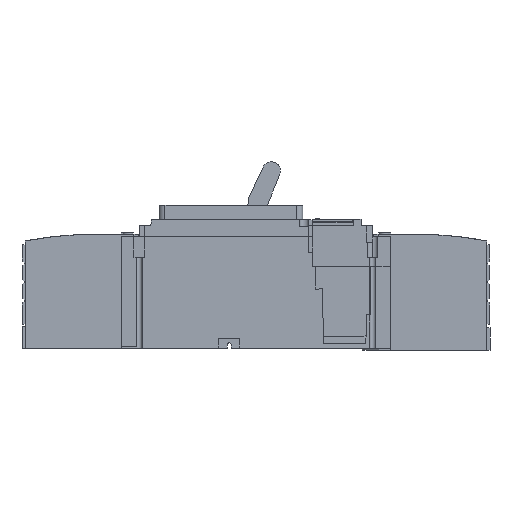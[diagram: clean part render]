
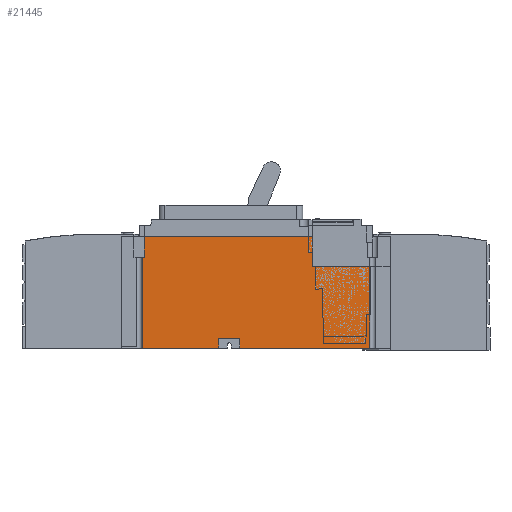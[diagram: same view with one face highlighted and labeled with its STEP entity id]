
A CAD part, left-side view. The second image highlights one B-rep face of the part: STEP entity #21445.
In plain terms, the highlighted planar face has unit normal (-1, 0, 0).
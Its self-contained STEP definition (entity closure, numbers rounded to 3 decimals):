
#1237=DIRECTION('',(0.,-1.,0.));
#1238=VECTOR('',#1237,111.354);
#1239=CARTESIAN_POINT('',(45.,165.266,-118.707));
#1240=LINE('',#1239,#1238);
#1324=DIRECTION('',(0.,-1.,0.));
#1325=VECTOR('',#1324,49.454);
#1326=CARTESIAN_POINT('',(45.,103.366,-48.707));
#1327=LINE('',#1326,#1325);
#1331=DIRECTION('',(0.,0.,-1.));
#1332=VECTOR('',#1331,70.);
#1333=CARTESIAN_POINT('',(45.,53.912,-48.707));
#1334=LINE('',#1333,#1332);
#1338=DIRECTION('',(0.,-1.,0.));
#1339=VECTOR('',#1338,1.954);
#1340=CARTESIAN_POINT('',(45.,248.821,-40.707));
#1341=LINE('',#1340,#1339);
#1345=DIRECTION('',(0.,0.,-1.));
#1346=VECTOR('',#1345,17.5);
#1347=CARTESIAN_POINT('',(45.,246.866,-23.207));
#1348=LINE('',#1347,#1346);
#1352=DIRECTION('',(0.,0.,-1.));
#1353=VECTOR('',#1352,8.5);
#1354=CARTESIAN_POINT('',(45.,165.266,-110.207));
#1355=LINE('',#1354,#1353);
#1424=DIRECTION('',(0.,1.,0.));
#1425=VECTOR('',#1424,65.354);
#1426=CARTESIAN_POINT('',(45.,183.466,-118.707));
#1427=LINE('',#1426,#1425);
#1585=DIRECTION('',(0.,0.,-1.));
#1586=VECTOR('',#1585,8.5);
#1587=CARTESIAN_POINT('',(45.,183.466,-110.207));
#1588=LINE('',#1587,#1586);
#1592=DIRECTION('',(0.,1.,0.));
#1593=VECTOR('',#1592,18.2);
#1594=CARTESIAN_POINT('',(45.,165.266,-110.207));
#1595=LINE('',#1594,#1593);
#2812=DIRECTION('',(0.,1.,0.));
#2813=VECTOR('',#2812,143.5);
#2814=CARTESIAN_POINT('',(45.,103.366,-23.207));
#2815=LINE('',#2814,#2813);
#3509=DIRECTION('',(0.,0.,-1.));
#3510=VECTOR('',#3509,78.);
#3511=CARTESIAN_POINT('',(45.,248.821,-40.707));
#3512=LINE('',#3511,#3510);
#9589=DIRECTION('',(0.,0.,-1.));
#9590=VECTOR('',#9589,25.5);
#9591=CARTESIAN_POINT('',(45.,103.366,-23.207));
#9592=LINE('',#9591,#9590);
#20503=CARTESIAN_POINT('',(45.,165.266,-118.707));
#20504=CARTESIAN_POINT('',(45.,53.912,-118.707));
#20505=VERTEX_POINT('',#20503);
#20506=VERTEX_POINT('',#20504);
#20507=CARTESIAN_POINT('',(45.,183.466,-118.707));
#20508=CARTESIAN_POINT('',(45.,248.821,-118.707));
#20509=VERTEX_POINT('',#20507);
#20510=VERTEX_POINT('',#20508);
#20523=CARTESIAN_POINT('',(45.,103.366,-23.207));
#20524=CARTESIAN_POINT('',(45.,103.366,-48.707));
#20525=VERTEX_POINT('',#20523);
#20526=VERTEX_POINT('',#20524);
#20527=CARTESIAN_POINT('',(45.,165.266,-110.207));
#20528=CARTESIAN_POINT('',(45.,183.466,-110.207));
#20529=VERTEX_POINT('',#20527);
#20530=VERTEX_POINT('',#20528);
#20553=CARTESIAN_POINT('',(45.,246.866,-23.207));
#20555=VERTEX_POINT('',#20553);
#20557=CARTESIAN_POINT('',(45.,248.821,-40.707));
#20558=CARTESIAN_POINT('',(45.,246.866,-40.707));
#20559=VERTEX_POINT('',#20557);
#20560=VERTEX_POINT('',#20558);
#20623=CARTESIAN_POINT('',(45.,53.912,-48.707));
#20625=VERTEX_POINT('',#20623);
#21417=CARTESIAN_POINT('',(45.,53.912,-11.407));
#21418=DIRECTION('',(1.,0.,0.));
#21419=DIRECTION('',(0.,1.,0.));
#21420=AXIS2_PLACEMENT_3D('',#21417,#21418,#21419);
#21421=PLANE('',#21420);
#21422=ORIENTED_EDGE('',*,*,#21041,.T.);
#21423=ORIENTED_EDGE('',*,*,#21409,.T.);
#21424=ORIENTED_EDGE('',*,*,#21374,.F.);
#21426=ORIENTED_EDGE('',*,*,#21425,.F.);
#21428=ORIENTED_EDGE('',*,*,#21427,.T.);
#21430=ORIENTED_EDGE('',*,*,#21429,.T.);
#21432=ORIENTED_EDGE('',*,*,#21431,.T.);
#21434=ORIENTED_EDGE('',*,*,#21433,.F.);
#21436=ORIENTED_EDGE('',*,*,#21435,.T.);
#21438=ORIENTED_EDGE('',*,*,#21437,.F.);
#21440=ORIENTED_EDGE('',*,*,#21439,.F.);
#21442=ORIENTED_EDGE('',*,*,#21441,.T.);
#21443=EDGE_LOOP('',(#21422,#21423,#21424,#21426,#21428,#21430,#21432,#21434,
#21436,#21438,#21440,#21442));
#21444=FACE_OUTER_BOUND('',#21443,.F.);
#21041=EDGE_CURVE('',#20526,#20625,#1327,.T.);
#21374=EDGE_CURVE('',#20505,#20506,#1240,.T.);
#21409=EDGE_CURVE('',#20625,#20506,#1334,.T.);
#21425=EDGE_CURVE('',#20529,#20505,#1355,.T.);
#21427=EDGE_CURVE('',#20529,#20530,#1595,.T.);
#21429=EDGE_CURVE('',#20530,#20509,#1588,.T.);
#21431=EDGE_CURVE('',#20509,#20510,#1427,.T.);
#21433=EDGE_CURVE('',#20559,#20510,#3512,.T.);
#21435=EDGE_CURVE('',#20559,#20560,#1341,.T.);
#21437=EDGE_CURVE('',#20555,#20560,#1348,.T.);
#21439=EDGE_CURVE('',#20525,#20555,#2815,.T.);
#21441=EDGE_CURVE('',#20525,#20526,#9592,.T.);
#21445=ADVANCED_FACE('',(#21444),#21421,.F.);
